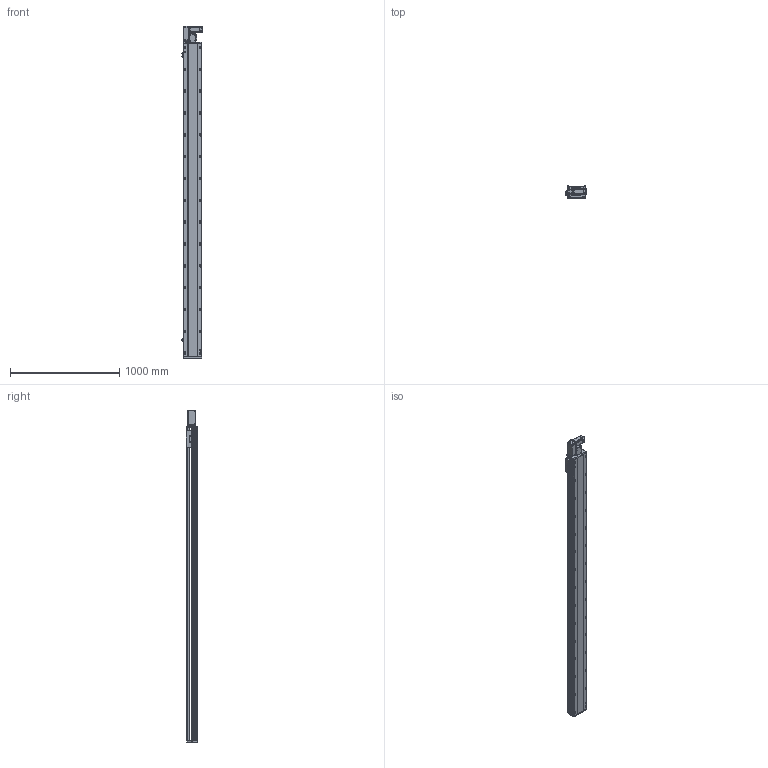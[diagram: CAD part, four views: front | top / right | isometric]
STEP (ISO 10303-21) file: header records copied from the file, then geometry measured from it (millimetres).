
FILE_DESCRIPTION (( 'STEP AP214' ), '1' );
FILE_NAME ('RTB17S-XX-2600-L-M40-C4.STEP', '2025-12-11T05:57:03', ( '' ), ( '' ), 'SwSTEP 2.0', 'SolidWorks 2018', '' );
FILE_SCHEMA (( 'AUTOMOTIVE_DESIGN' ));
Length unit declared in the file: millimetre
Products named in the file (14): RTB14-L-017P^RTB17S-L-皮带座装配-400W_RTB17S-XX-XX-L-M40-C4（方程式）; RTB14-L-018P^RTB17S-L-皮带座装配-400W_RTB17S-XX-XX-L-M40-C4（方程式）; RTB17S-L-皮带座装配-400W^RTB17S-XX-XX-L-M40-C4（方程式）; OMRON EE-SX672 传感器^RTB17S-XX-XX-L-M40-C4（方程式）; RTB17S-L-001侧面板^RTB17S-XX-XX-L-M40-C4（方程式）; RTB17-R-011底座^RTB17S-XX-XX-L-M40-C4（方程式）; RTH13-BL-012感应片外置^RTB17S-XX-XX-L-M40-C4（方程式）; RTB14-L-005P--轴承塑胶压盖^RTB17S-L-皮带座装配-400W_RTB17S-XX-XX-L-M40-C4（方程式）; RMP17S-L-014-T20--皮带座^RTB17S-L-皮带座装配-400W_RTB17S-XX-XX-L-M40-C4（方程式）; RTB14-L-008-M20--电机板^RTB17S-L-皮带座装配-400W_RTB17S-XX-XX-L-M40-C4（方程式）; RTB17S-XX-2600-L-M40-C4; RTB17S-L-007上盖^RTB17S-XX-XX-L-M40-C4（方程式）; 400W伺服电机^RTB17S-XX-XX-L-M40-C4（方程式）; RTB17S-L-004丝杆螺母连接座^RTB17S-XX-XX-L-M40-C4（方程式）
Assembly tree (16 placements, depth 3):
  RTB17S-XX-2600-L-M40-C4
    RTB17-R-011底座^RTB17S-XX-XX-L-M40-C4（方程式）
    RTB17S-L-007上盖^RTB17S-XX-XX-L-M40-C4（方程式）
    OMRON EE-SX672 传感器^RTB17S-XX-XX-L-M40-C4（方程式）  x3
    RTB17S-L-001侧面板^RTB17S-XX-XX-L-M40-C4（方程式）
    400W伺服电机^RTB17S-XX-XX-L-M40-C4（方程式）
    RTB17S-L-004丝杆螺母连接座^RTB17S-XX-XX-L-M40-C4（方程式）
    RTH13-BL-012感应片外置^RTB17S-XX-XX-L-M40-C4（方程式）
    RTB17S-L-皮带座装配-400W^RTB17S-XX-XX-L-M40-C4（方程式）
      RMP17S-L-014-T20--皮带座^RTB17S-L-皮带座装配-400W_RTB17S-XX-XX-L-M40-C4（方程式）
      RTB14-L-005P--轴承塑胶压盖^RTB17S-L-皮带座装配-400W_RTB17S-XX-XX-L-M40-C4（方程式）
      RTB14-L-008-M20--电机板^RTB17S-L-皮带座装配-400W_RTB17S-XX-XX-L-M40-C4（方程式）
      RTB14-L-017P^RTB17S-L-皮带座装配-400W_RTB17S-XX-XX-L-M40-C4（方程式）  x2
      RTB14-L-018P^RTB17S-L-皮带座装配-400W_RTB17S-XX-XX-L-M40-C4（方程式）
Bounding box: 186 x 108 x 3041 mm (x, y, z)
Volume: 25424834.4 mm3; surface area: 2920031.7 mm2
Topology: 15 solids, 15 shells, 2333 faces, 6519 edges, 4257 vertices
Faces by surface type: plane 1084, cylinder 801, bspline 301, cone 139, torus 8
Entity records: 68777 total; most frequent: CARTESIAN_POINT 19524, ORIENTED_EDGE 9882, DIRECTION 9116, EDGE_CURVE 4941, VERTEX_POINT 3245, AXIS2_PLACEMENT_3D 3175, VECTOR 2766, LINE 2766
